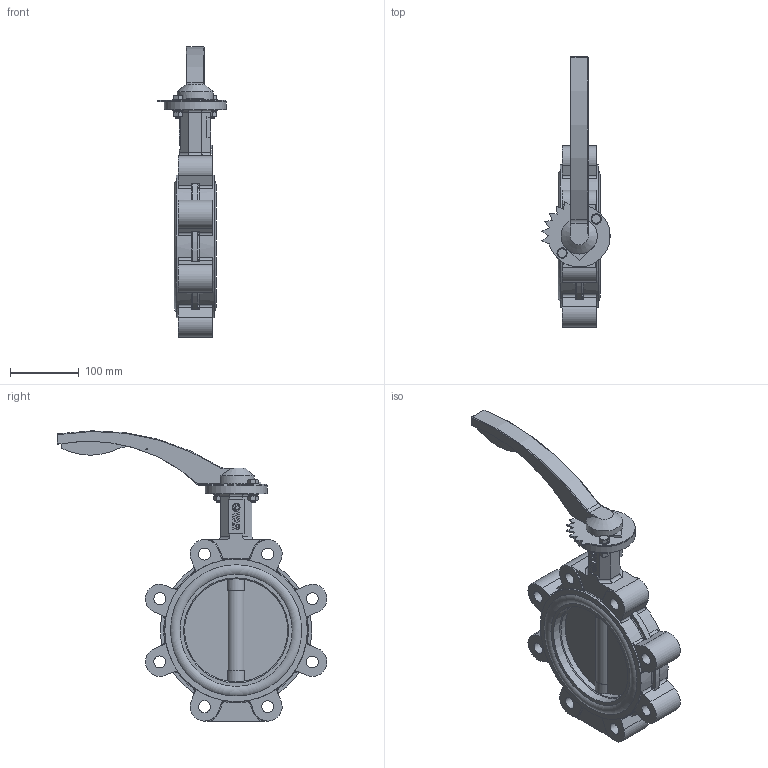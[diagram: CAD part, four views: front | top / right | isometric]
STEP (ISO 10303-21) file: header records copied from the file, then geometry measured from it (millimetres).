
FILE_DESCRIPTION(('STEP AP242'), '1');
FILE_NAME('Ïîâîðîòíûé çàòâîð ïîä ýëåêòðîïðèâîä', '', ('UNSPECIFIED'), ('UNSPECIFIED'), 'C3D Converter', 'C3D Toolkit', '');
FILE_SCHEMA(('AP242_MANAGED_MODEL_BASED_3D_ENGINEERING_MIM_LF { 1 0 10303 442 1 1 4 }'));
Length unit declared in the file: millimetre
Products named in the file (14): П
Assembly tree (20 placements, depth 3):
  (unnamed)
    (unnamed)
    П  x2
    (unnamed)
    (unnamed)
    (unnamed)
    (unnamed)
      (unnamed)
      (unnamed)
      (unnamed)
    (unnamed)  x2
    (unnamed)  x4
    (unnamed)  x2
    (unnamed)  x2
Bounding box: 99.15 x 391.85 x 421.95 mm (x, y, z)
Volume: 2072526.1 mm3; surface area: 452672.4 mm2
Topology: 19 solids, 19 shells, 745 faces, 1879 edges, 1206 vertices
Faces by surface type: plane 337, cylinder 183, extrusion 139, torus 64, cone 18, bspline 2, sphere 2
Full cylindrical faces by diameter (mm): 2 x2, 3 x2, 6 x2, 6.647 x2, 8 x2, 9 x4, 10 x6, 11.421 x1, 15 x4, 17 x5, 17.294 x8, 18.7 x1, 24.042 x5, 26.41 x4, 26.87 x1, 90 x1, 150 x1, 152.625 x2, 163.125 x2, 176.896 x4, 190.667 x4, 207.2 x2
Entity records: 27867 total; most frequent: CARTESIAN_POINT 8624, ORIENTED_EDGE 3422, DIRECTION 3066, EDGE_CURVE 1711, VERTEX_POINT 1146, VECTOR 1032, AXIS2_PLACEMENT_3D 1017, LINE 893
